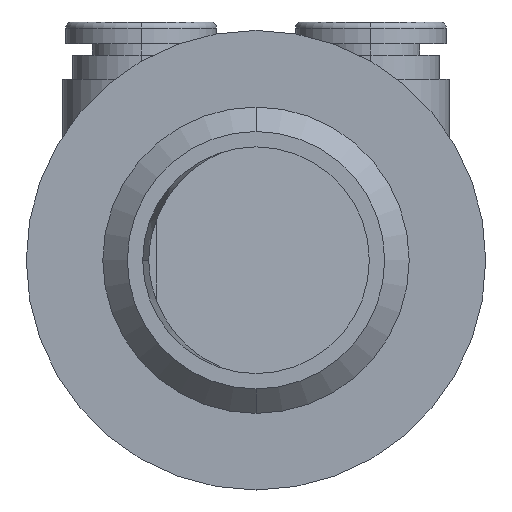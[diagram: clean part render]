
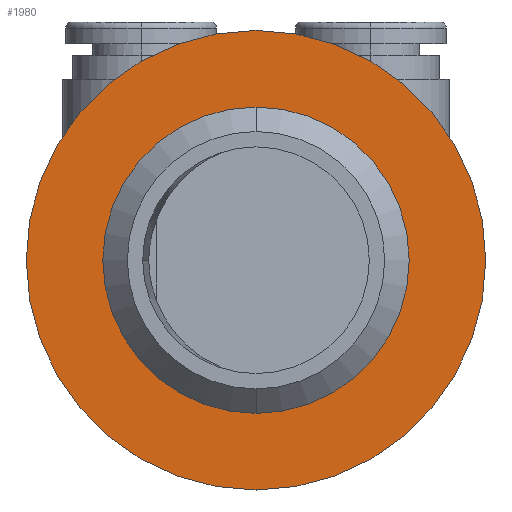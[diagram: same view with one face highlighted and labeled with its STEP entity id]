
A CAD part, front view. The second image highlights one B-rep face of the part: STEP entity #1980.
In plain terms, the highlighted planar face has unit normal (0, -1, 0).
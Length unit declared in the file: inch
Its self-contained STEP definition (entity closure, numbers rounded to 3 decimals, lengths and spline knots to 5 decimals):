
#172 = CARTESIAN_POINT ( 'NONE',  ( 0., 0.7, 0. ) ) ;
#198 = CIRCLE ( 'NONE', #7726, 0.5 ) ;
#239 = EDGE_LOOP ( 'NONE', ( #3994, #4935 ) ) ;
#441 = CIRCLE ( 'NONE', #4794, 0.75 ) ;
#504 = DIRECTION ( 'NONE',  ( 0., 1., 0. ) ) ;
#782 = DIRECTION ( 'NONE',  ( 0., 0., 1. ) ) ;
#846 = AXIS2_PLACEMENT_3D ( 'NONE', #172, #3716, #1902 ) ;
#1042 = CARTESIAN_POINT ( 'NONE',  ( 0., 0.7, -0.75 ) ) ;
#1083 = CIRCLE ( 'NONE', #5556, 0.5 ) ;
#1217 = CARTESIAN_POINT ( 'NONE',  ( 0., 0.7, -0.5 ) ) ;
#1398 = EDGE_LOOP ( 'NONE', ( #2956, #7700 ) ) ;
#1672 = DIRECTION ( 'NONE',  ( 0., 1., 0. ) ) ;
#1711 = DIRECTION ( 'NONE',  ( 0., 0., 1. ) ) ;
#1795 = CARTESIAN_POINT ( 'NONE',  ( 0., 0.7, 0. ) ) ;
#1824 = EDGE_CURVE ( 'NONE', #5367, #5991, #198, .T. ) ;
#1902 = DIRECTION ( 'NONE',  ( 0., 0., 1. ) ) ;
#1980 = ADVANCED_FACE ( 'NONE', ( #5581, #7397 ), #3075, .F. ) ;
#2956 = ORIENTED_EDGE ( 'NONE', *, *, #5314, .T. ) ;
#3075 = PLANE ( 'NONE',  #846 ) ;
#3382 = CARTESIAN_POINT ( 'NONE',  ( 0., 0.7, 0.5 ) ) ;
#3446 = DIRECTION ( 'NONE',  ( 0., 0., 1. ) ) ;
#3604 = DIRECTION ( 'NONE',  ( 0., 0., 1. ) ) ;
#3716 = DIRECTION ( 'NONE',  ( 0., 1., 0. ) ) ;
#3994 = ORIENTED_EDGE ( 'NONE', *, *, #4619, .F. ) ;
#4115 = CARTESIAN_POINT ( 'NONE',  ( 0., 0.7, 0. ) ) ;
#4456 = CARTESIAN_POINT ( 'NONE',  ( 0., 0.7, 0. ) ) ;
#4611 = DIRECTION ( 'NONE',  ( 0., 1., 0. ) ) ;
#4619 = EDGE_CURVE ( 'NONE', #6746, #7537, #7224, .T. ) ;
#4794 = AXIS2_PLACEMENT_3D ( 'NONE', #1795, #6088, #1711 ) ;
#4820 = EDGE_CURVE ( 'NONE', #7537, #6746, #441, .T. ) ;
#4935 = ORIENTED_EDGE ( 'NONE', *, *, #4820, .F. ) ;
#5314 = EDGE_CURVE ( 'NONE', #5991, #5367, #1083, .T. ) ;
#5367 = VERTEX_POINT ( 'NONE', #3382 ) ;
#5545 = AXIS2_PLACEMENT_3D ( 'NONE', #4115, #1672, #3446 ) ;
#5556 = AXIS2_PLACEMENT_3D ( 'NONE', #4456, #4611, #782 ) ;
#5581 = FACE_BOUND ( 'NONE', #1398, .T. ) ;
#5991 = VERTEX_POINT ( 'NONE', #1217 ) ;
#6088 = DIRECTION ( 'NONE',  ( 0., 1., 0. ) ) ;
#6524 = CARTESIAN_POINT ( 'NONE',  ( 0., 0.7, 0.75 ) ) ;
#6746 = VERTEX_POINT ( 'NONE', #1042 ) ;
#7224 = CIRCLE ( 'NONE', #5545, 0.75 ) ;
#7239 = CARTESIAN_POINT ( 'NONE',  ( 0., 0.7, 0. ) ) ;
#7397 = FACE_OUTER_BOUND ( 'NONE', #239, .T. ) ;
#7537 = VERTEX_POINT ( 'NONE', #6524 ) ;
#7700 = ORIENTED_EDGE ( 'NONE', *, *, #1824, .T. ) ;
#7726 = AXIS2_PLACEMENT_3D ( 'NONE', #7239, #504, #3604 ) ;
